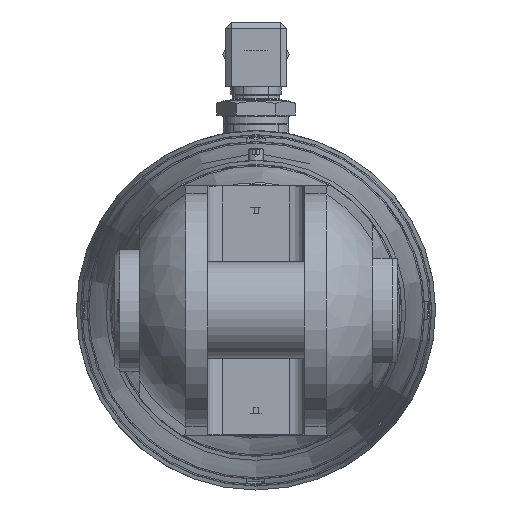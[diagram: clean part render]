
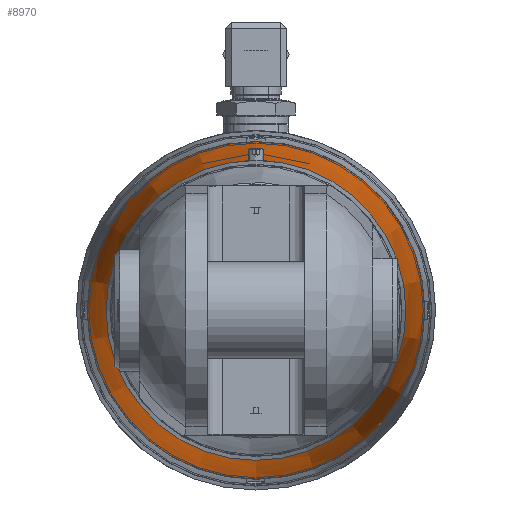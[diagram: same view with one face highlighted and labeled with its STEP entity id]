
A CAD part, left-side view. The second image highlights one B-rep face of the part: STEP entity #8970.
In plain terms, the highlighted conical face has half-angle 5 degrees and reference radius 52.078 mm.
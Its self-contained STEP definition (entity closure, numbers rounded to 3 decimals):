
#109=CONICAL_SURFACE('',#9798,52.078,0.087);
#694=LINE('',#15589,#1274);
#1274=VECTOR('',#11765,52.078);
#2292=FACE_BOUND('',#3196,.T.);
#2663=FACE_OUTER_BOUND('',#3195,.T.);
#3195=EDGE_LOOP('',(#7665,#7666,#7667,#7668,#7669,#7670));
#3196=EDGE_LOOP('',(#7671,#7672));
#3670=CIRCLE('',#9799,55.113);
#3671=CIRCLE('',#9800,55.113);
#3672=CIRCLE('',#9801,49.);
#3673=CIRCLE('',#9802,49.);
#3834=B_SPLINE_CURVE_WITH_KNOTS('',3,(#13105,#13106,#13107,#13108,#13109,
#13110,#13111,#13112,#13113,#13114,#13115,#13116,#13117,#13118,#13119,#13120,
#13121,#13122,#13123,#13124,#13125,#13126,#13127),.UNSPECIFIED.,.F.,.F.,
(4,2,2,2,2,2,2,2,2,3,4),(-0.707,-0.642,-0.563,
-0.484,-0.403,-0.321,-0.239,
-0.158,-0.079,0.,0.065),
 .UNSPECIFIED.);
#3835=B_SPLINE_CURVE_WITH_KNOTS('',3,(#13197,#13198,#13199,#13200,#13201,
#13202,#13203,#13204,#13205,#13206,#13207,#13208,#13209,#13210,#13211,#13212,
#13213,#13214),.UNSPECIFIED.,.F.,.F.,(4,2,2,2,2,2,2,2,4),(0.678,
0.712,0.791,0.871,0.95,1.03,
1.109,1.189,1.222),.UNSPECIFIED.);
#3957=VERTEX_POINT('',#13103);
#3958=VERTEX_POINT('',#13104);
#4425=VERTEX_POINT('',#15584);
#4426=VERTEX_POINT('',#15585);
#4427=VERTEX_POINT('',#15588);
#4428=VERTEX_POINT('',#15590);
#4829=EDGE_CURVE('',#3957,#3958,#3834,.T.);
#4864=EDGE_CURVE('',#3958,#3957,#3835,.T.);
#5556=EDGE_CURVE('',#4425,#4426,#3670,.T.);
#5557=EDGE_CURVE('',#4426,#4425,#3671,.T.);
#5558=EDGE_CURVE('',#4426,#4427,#694,.T.);
#5559=EDGE_CURVE('',#4428,#4427,#3672,.T.);
#5560=EDGE_CURVE('',#4427,#4428,#3673,.T.);
#7665=ORIENTED_EDGE('',*,*,#5556,.F.);
#7666=ORIENTED_EDGE('',*,*,#5557,.F.);
#7667=ORIENTED_EDGE('',*,*,#5558,.T.);
#7668=ORIENTED_EDGE('',*,*,#5559,.F.);
#7669=ORIENTED_EDGE('',*,*,#5560,.F.);
#7670=ORIENTED_EDGE('',*,*,#5558,.F.);
#7671=ORIENTED_EDGE('',*,*,#4829,.T.);
#7672=ORIENTED_EDGE('',*,*,#4864,.T.);
#8970=ADVANCED_FACE('',(#2663,#2292),#109,.T.);
#9798=AXIS2_PLACEMENT_3D('',#15583,#11759,#11760);
#9799=AXIS2_PLACEMENT_3D('',#15586,#11761,#11762);
#9800=AXIS2_PLACEMENT_3D('',#15587,#11763,#11764);
#9801=AXIS2_PLACEMENT_3D('',#15591,#11766,#11767);
#9802=AXIS2_PLACEMENT_3D('',#15592,#11768,#11769);
#11759=DIRECTION('center_axis',(1.,0.,0.));
#11760=DIRECTION('ref_axis',(0.,0.,
1.));
#11761=DIRECTION('center_axis',(1.,0.,0.));
#11762=DIRECTION('ref_axis',(0.,0.,
-1.));
#11763=DIRECTION('center_axis',(1.,0.,0.));
#11764=DIRECTION('ref_axis',(0.,0.,
-1.));
#11765=DIRECTION('',(-0.996,0.,0.087));
#11766=DIRECTION('center_axis',(-1.,0.,0.));
#11767=DIRECTION('ref_axis',(0.,0.,
-1.));
#11768=DIRECTION('center_axis',(-1.,0.,0.));
#11769=DIRECTION('ref_axis',(0.,0.,
-1.));
#13103=CARTESIAN_POINT('',(-775.039,-2.049,51.));
#13104=CARTESIAN_POINT('',(-775.039,2.049,51.));
#13105=CARTESIAN_POINT('Ctrl Pts',(-775.039,-2.049,
51.));
#13106=CARTESIAN_POINT('Ctrl Pts',(-775.255,-2.12,
50.978));
#13107=CARTESIAN_POINT('Ctrl Pts',(-775.481,-2.154,
50.957));
#13108=CARTESIAN_POINT('Ctrl Pts',(-775.959,-2.152,
50.915));
#13109=CARTESIAN_POINT('Ctrl Pts',(-776.238,-2.098,
50.893));
#13110=CARTESIAN_POINT('Ctrl Pts',(-776.751,-1.883,
50.857));
#13111=CARTESIAN_POINT('Ctrl Pts',(-776.985,-1.721,50.842));
#13112=CARTESIAN_POINT('Ctrl Pts',(-777.362,-1.342,
50.82));
#13113=CARTESIAN_POINT('Ctrl Pts',(-777.528,-1.098,
50.812));
#13114=CARTESIAN_POINT('Ctrl Pts',(-777.747,-0.563,
50.802));
#13115=CARTESIAN_POINT('Ctrl Pts',(-777.8,-0.272,
50.8));
#13116=CARTESIAN_POINT('Ctrl Pts',(-777.8,0.272,
50.8));
#13117=CARTESIAN_POINT('Ctrl Pts',(-777.747,0.563,
50.802));
#13118=CARTESIAN_POINT('Ctrl Pts',(-777.528,1.098,50.812));
#13119=CARTESIAN_POINT('Ctrl Pts',(-777.362,1.342,50.82));
#13120=CARTESIAN_POINT('Ctrl Pts',(-776.985,1.721,50.842));
#13121=CARTESIAN_POINT('Ctrl Pts',(-776.751,1.883,50.857));
#13122=CARTESIAN_POINT('Ctrl Pts',(-776.238,2.098,50.893));
#13123=CARTESIAN_POINT('Ctrl Pts',(-775.959,2.152,50.915));
#13124=CARTESIAN_POINT('Ctrl Pts',(-775.697,2.153,50.938));
#13125=CARTESIAN_POINT('Ctrl Pts',(-775.481,2.154,50.957));
#13126=CARTESIAN_POINT('Ctrl Pts',(-775.255,2.12,50.978));
#13127=CARTESIAN_POINT('Ctrl Pts',(-775.039,2.049,51.));
#13197=CARTESIAN_POINT('Ctrl Pts',(-775.039,2.049,51.));
#13198=CARTESIAN_POINT('Ctrl Pts',(-774.924,2.023,51.011));
#13199=CARTESIAN_POINT('Ctrl Pts',(-774.811,1.987,51.022));
#13200=CARTESIAN_POINT('Ctrl Pts',(-774.442,1.836,51.06));
#13201=CARTESIAN_POINT('Ctrl Pts',(-774.205,1.674,51.087));
#13202=CARTESIAN_POINT('Ctrl Pts',(-773.831,1.301,51.131));
#13203=CARTESIAN_POINT('Ctrl Pts',(-773.669,1.065,51.151));
#13204=CARTESIAN_POINT('Ctrl Pts',(-773.453,0.547,51.178));
#13205=CARTESIAN_POINT('Ctrl Pts',(-773.4,0.265,
51.185));
#13206=CARTESIAN_POINT('Ctrl Pts',(-773.4,-0.265,
51.185));
#13207=CARTESIAN_POINT('Ctrl Pts',(-773.453,-0.547,
51.178));
#13208=CARTESIAN_POINT('Ctrl Pts',(-773.669,-1.065,51.151));
#13209=CARTESIAN_POINT('Ctrl Pts',(-773.831,-1.301,
51.131));
#13210=CARTESIAN_POINT('Ctrl Pts',(-774.205,-1.674,51.087));
#13211=CARTESIAN_POINT('Ctrl Pts',(-774.442,-1.836,
51.06));
#13212=CARTESIAN_POINT('Ctrl Pts',(-774.811,-1.987,
51.022));
#13213=CARTESIAN_POINT('Ctrl Pts',(-774.924,-2.023,51.011));
#13214=CARTESIAN_POINT('Ctrl Pts',(-775.039,-2.049,
51.));
#15583=CARTESIAN_POINT('Origin',(-763.185,0.,
0.));
#15584=CARTESIAN_POINT('',(-728.498,0.,55.113));
#15585=CARTESIAN_POINT('',(-728.498,0.,-55.113));
#15586=CARTESIAN_POINT('Origin',(-728.498,0.,
0.));
#15587=CARTESIAN_POINT('Origin',(-728.498,0.,
0.));
#15588=CARTESIAN_POINT('',(-798.369,0.,-49.));
#15589=CARTESIAN_POINT('',(-763.185,0.,-52.078));
#15590=CARTESIAN_POINT('',(-798.369,0.,49.));
#15591=CARTESIAN_POINT('Origin',(-798.369,0.,
0.));
#15592=CARTESIAN_POINT('Origin',(-798.369,0.,
0.));
